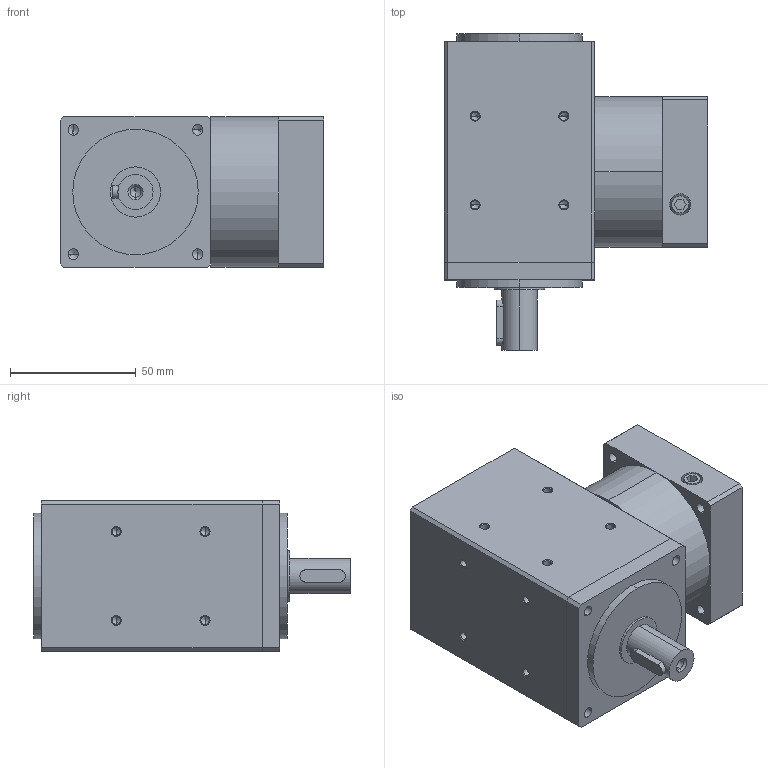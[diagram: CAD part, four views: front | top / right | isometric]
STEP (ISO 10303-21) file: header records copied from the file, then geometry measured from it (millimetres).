
FILE_DESCRIPTION (( 'STEP AP203' ), '1' );
FILE_NAME ('RAAS-060.STEP', '2010-05-27T18:42:45', ( 'render' ), ( '' ), 'SwSTEP 2.0', 'SolidWorks 2009', '' );
FILE_SCHEMA (( 'CONFIG_CONTROL_DESIGN' ));
Length unit declared in the file: millimetre
Products named in the file (1): RAAS-060
Bounding box: 105 x 126 x 60 mm (x, y, z)
Volume: 473980.7 mm3; surface area: 64792.1 mm2
Topology: 4 solids, 4 shells, 214 faces, 508 edges, 293 vertices
Faces by surface type: cylinder 99, cone 68, plane 47
Entity records: 6108 total; most frequent: CARTESIAN_POINT 1115, DIRECTION 1114, ORIENTED_EDGE 932, EDGE_CURVE 466, AXIS2_PLACEMENT_3D 437, VERTEX_POINT 293, EDGE_LOOP 265, LINE 240
